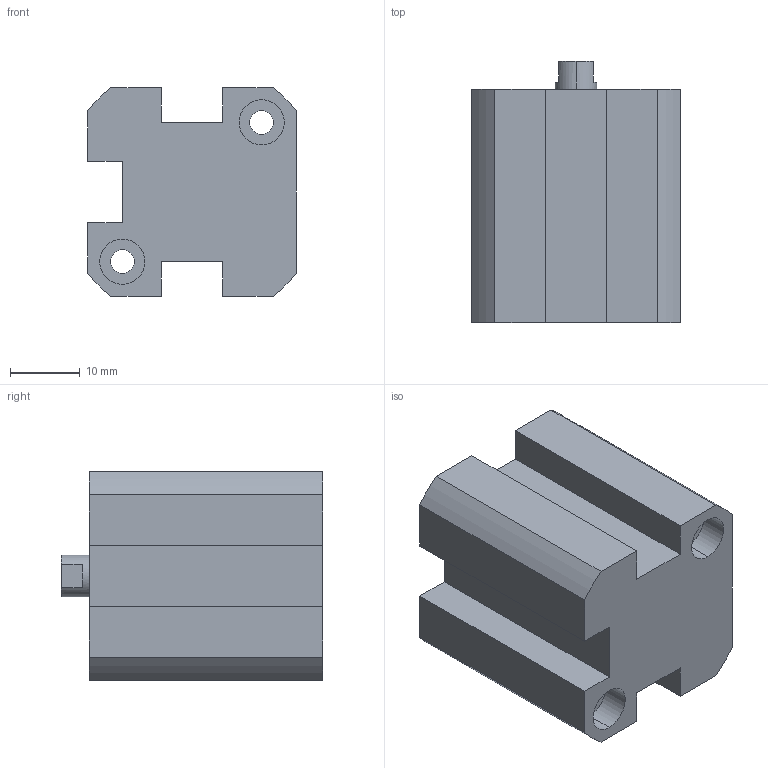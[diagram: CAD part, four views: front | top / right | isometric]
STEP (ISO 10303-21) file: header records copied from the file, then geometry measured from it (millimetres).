
FILE_DESCRIPTION (( 'STEP AP203' ), '1' );
FILE_NAME ('XC#2-16D-10.STEP', '2016-05-23T08:05:36', ( '' ), ( '' ), 'SwSTEP 2.0', 'SolidWorks 2014', '' );
FILE_SCHEMA (( 'CONFIG_CONTROL_DESIGN' ));
Length unit declared in the file: millimetre
Products named in the file (1): XC#2-16D-10
Bounding box: 30 x 37.5 x 30 mm (x, y, z)
Volume: 23460.4 mm3; surface area: 7738.6 mm2
Topology: 1 solids, 1 shells, 77 faces, 191 edges, 122 vertices
Faces by surface type: cylinder 39, plane 32, cone 6
Entity records: 2355 total; most frequent: DIRECTION 424, CARTESIAN_POINT 385, ORIENTED_EDGE 370, EDGE_CURVE 185, AXIS2_PLACEMENT_3D 161, VERTEX_POINT 122, VECTOR 102, LINE 102
